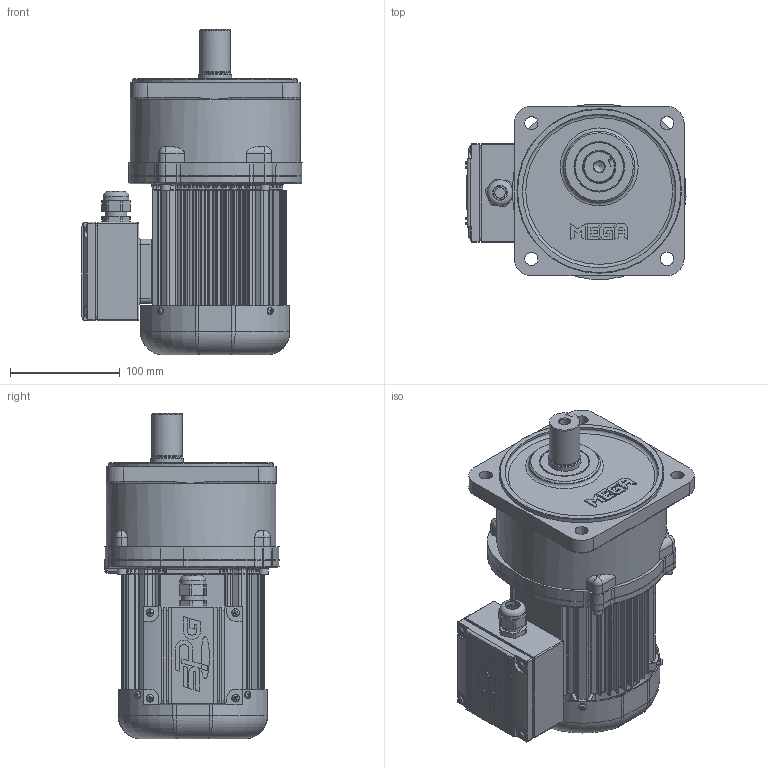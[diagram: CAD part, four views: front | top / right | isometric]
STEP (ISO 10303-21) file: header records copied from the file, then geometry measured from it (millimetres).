
FILE_DESCRIPTION(/* description */ (''),/* implementation_level */ '2;1');
FILE_NAME(/* name */ 'Z:\동력 3D 파일\PMK105_0.2kW_3D.stp',/* time_stamp */ '2021-11-18T16:00:10+09:00',/* author */ ('jaebok'),/* organization */ (''),/* preprocessor_version */ 'ST-DEVELOPER v18.1',/* originating_system */ 'Autodesk Inventor 2022',/* authorisation */ '');
FILE_SCHEMA (('AUTOMOTIVE_DESIGN { 1 0 10303 214 3 1 1 }'));
Products named in the file (1): 부품5
Bounding box: 200.7 x 159.49 x 297 mm (x, y, z)
Volume: 1520577.4 mm3; surface area: 505709.1 mm2
Topology: 1 solids, 29 shells, 2953 faces, 7481 edges, 4475 vertices
Faces by surface type: plane 948, cylinder 848, bspline 649, torus 300, cone 142, sphere 66
Full cylindrical faces by diameter (mm): 2 x1, 3.242 x4, 3.25 x1, 3.5 x4, 3.6 x4, 4 x21, 4.134 x4, 4.2 x4, 5 x23, 5.5 x4, 6 x8, 7 x12, 8 x5, 8.5 x4, 10 x2, 12 x4, 12.5 x1, 15 x1, 16.2 x1, 19 x1, 20 x2, 21 x1, 23.6 x1, 25 x1, 27 x1, 27.6 x1, 27.96 x1, 28 x2, 30 x4, 32 x1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
Entity records: 116002 total; most frequent: CARTESIAN_POINT 45919, ORIENTED_EDGE 14528, DIRECTION 13281, EDGE_CURVE 7264, AXIS2_PLACEMENT_3D 5309, VERTEX_POINT 4475, EDGE_LOOP 3149, STYLED_ITEM 2954
